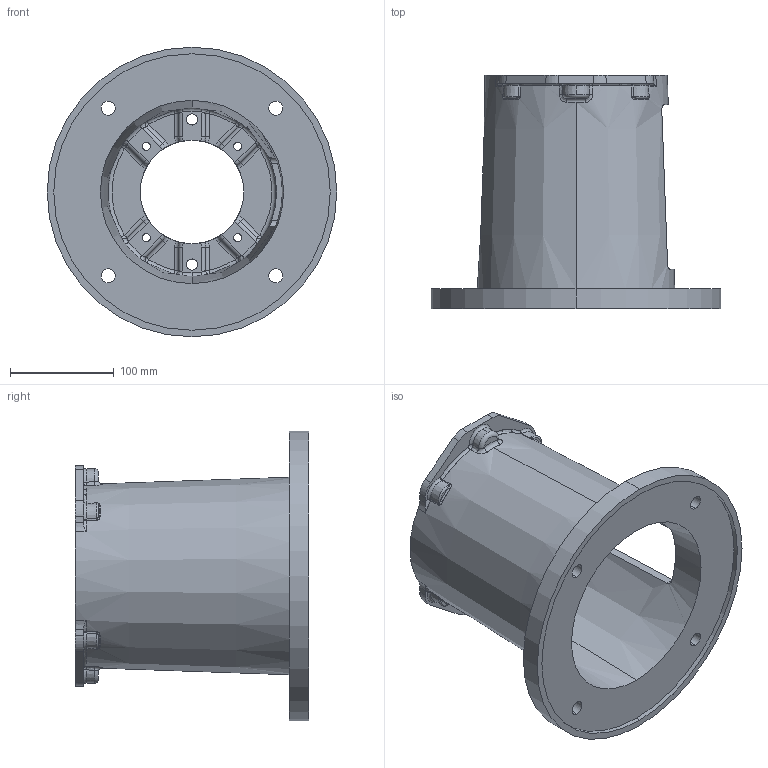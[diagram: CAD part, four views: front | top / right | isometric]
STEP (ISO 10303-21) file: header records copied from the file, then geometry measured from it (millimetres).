
FILE_DESCRIPTION (( 'STEP AP203' ), '1' );
FILE_NAME ('M28486100M.STEP', '2015-01-19T16:35:49', ( '' ), ( '' ), 'SwSTEP 2.0', 'SolidWorks 2014', '' );
FILE_SCHEMA (( 'CONFIG_CONTROL_DESIGN' ));
Length unit declared in the file: inch
Products named in the file (1): M28486100M
Bounding box: 279.4 x 225.3 x 279.4 mm (x, y, z)
Volume: 1529636 mm3; surface area: 353781 mm2
Topology: 1 solids, 1 shells, 354 faces, 902 edges, 532 vertices
Faces by surface type: torus 106, cylinder 86, bspline 64, plane 50, sphere 24, cone 24
Entity records: 14557 total; most frequent: CARTESIAN_POINT 6417, ORIENTED_EDGE 1764, DIRECTION 1686, EDGE_CURVE 882, AXIS2_PLACEMENT_3D 763, VERTEX_POINT 532, CIRCLE 472, EDGE_LOOP 380
